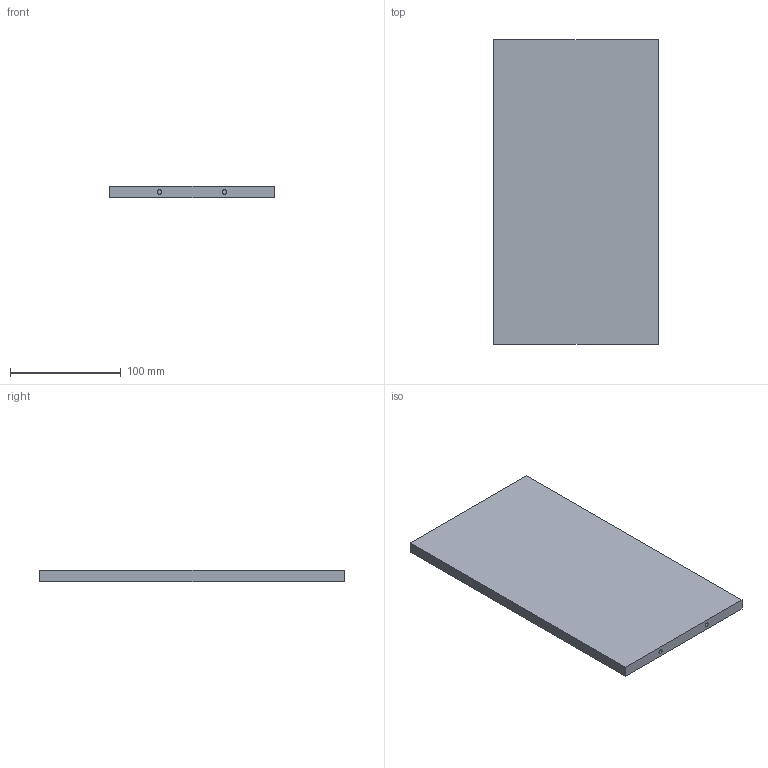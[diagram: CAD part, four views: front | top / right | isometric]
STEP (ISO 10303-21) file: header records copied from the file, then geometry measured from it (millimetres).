
FILE_DESCRIPTION(('FreeCAD Model'),'2;1');
FILE_NAME('/home/bluelambda/Documents/Arcade/cad/step/top.step', '2016-04-10T12:46:09',('Author'),(''), 'Open CASCADE STEP processor 6.9','FreeCAD','Unknown');
FILE_SCHEMA(('AUTOMOTIVE_DESIGN { 1 0 10303 214 1 1 1 1 }'));
Length unit declared in the file: millimetre
Products named in the file (1): top
Bounding box: 149 x 275 x 10 mm (x, y, z)
Volume: 409247.3 mm3; surface area: 90932.7 mm2
Topology: 1 solids, 1 shells, 14 faces, 24 edges, 16 vertices
Faces by surface type: plane 10, cylinder 4
Full cylindrical faces by diameter (mm): 4 x4
Entity records: 669 total; most frequent: DIRECTION 110, CARTESIAN_POINT 103, LINE 56, VECTOR 56, ORIENTED_EDGE 48, PCURVE 48, DEFINITIONAL_REPRESENTATION 48, EDGE_CURVE 24
